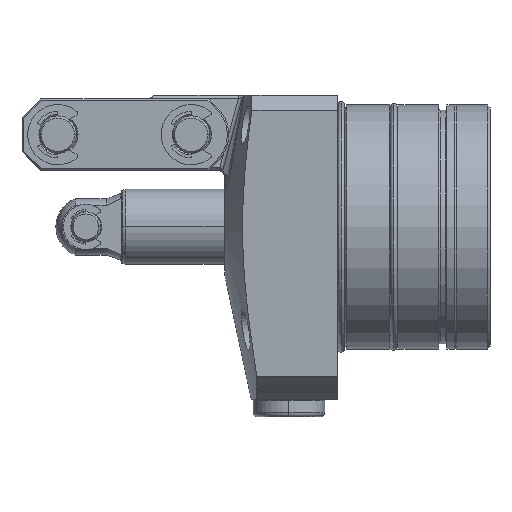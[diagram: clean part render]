
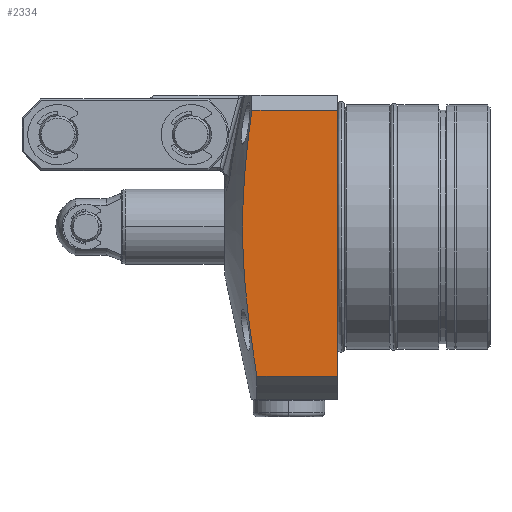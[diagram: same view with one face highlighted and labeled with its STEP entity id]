
A CAD part, top view. The second image highlights one B-rep face of the part: STEP entity #2334.
In plain terms, the highlighted planar face has unit normal (0, 0, 1).
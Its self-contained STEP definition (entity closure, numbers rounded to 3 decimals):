
#1483=B_SPLINE_CURVE_WITH_KNOTS('',3,(#13028,#13029,#13030,#13031,#13032,
#13033),.UNSPECIFIED.,.F.,.F.,(4,2,4),(0.,0.5,1.),.UNSPECIFIED.);
#1964=PLANE('',#8913);
#2334=ADVANCED_FACE('',(#2881),#1964,.F.);
#2881=FACE_OUTER_BOUND('',#3317,.T.);
#3317=EDGE_LOOP('',(#5649,#5650,#5651,#5652));
#3762=LINE('',#13473,#4131);
#3768=LINE('',#13500,#4137);
#3769=LINE('',#13502,#4138);
#4131=VECTOR('',#10950,1.);
#4137=VECTOR('',#10968,1.);
#4138=VECTOR('',#10971,1.);
#5649=ORIENTED_EDGE('',*,*,#7510,.F.);
#5650=ORIENTED_EDGE('',*,*,#7509,.T.);
#5651=ORIENTED_EDGE('',*,*,#7410,.T.);
#5652=ORIENTED_EDGE('',*,*,#7499,.F.);
#6565=VERTEX_POINT('',#13027);
#6566=VERTEX_POINT('',#13034);
#6631=VERTEX_POINT('',#13472);
#6636=VERTEX_POINT('',#13499);
#7410=EDGE_CURVE('',#6566,#6565,#1483,.T.);
#7499=EDGE_CURVE('',#6631,#6565,#3762,.T.);
#7509=EDGE_CURVE('',#6636,#6566,#3768,.T.);
#7510=EDGE_CURVE('',#6636,#6631,#3769,.T.);
#8913=AXIS2_PLACEMENT_3D('',#13503,#10972,#10973);
#10950=DIRECTION('',(-1.,0.,0.));
#10968=DIRECTION('',(-1.,0.,0.));
#10971=DIRECTION('',(0.,-1.,0.));
#10972=DIRECTION('',(0.,0.,-1.));
#10973=DIRECTION('',(0.,-1.,0.));
#13027=CARTESIAN_POINT('',(-21.51,-39.799,35.));
#13028=CARTESIAN_POINT('',(-22.837,31.,35.));
#13029=CARTESIAN_POINT('',(-24.494,19.242,35.));
#13030=CARTESIAN_POINT('',(-25.589,7.464,35.));
#13031=CARTESIAN_POINT('',(-24.967,-16.193,35.));
#13032=CARTESIAN_POINT('',(-23.386,-28.048,35.));
#13033=CARTESIAN_POINT('',(-21.51,-39.799,35.));
#13034=CARTESIAN_POINT('',(-22.837,31.,35.));
#13472=CARTESIAN_POINT('',(0.,-39.799,35.));
#13473=CARTESIAN_POINT('',(31.5,-39.799,35.));
#13499=CARTESIAN_POINT('',(0.,31.,35.));
#13500=CARTESIAN_POINT('',(31.501,31.,35.));
#13502=CARTESIAN_POINT('',(0.,31.,35.));
#13503=CARTESIAN_POINT('',(31.501,31.,35.));
